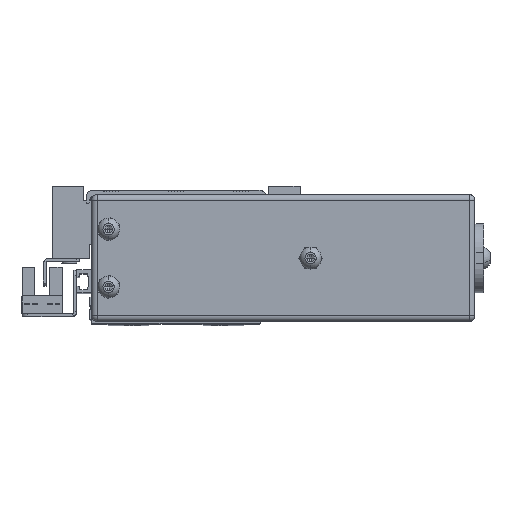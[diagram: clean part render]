
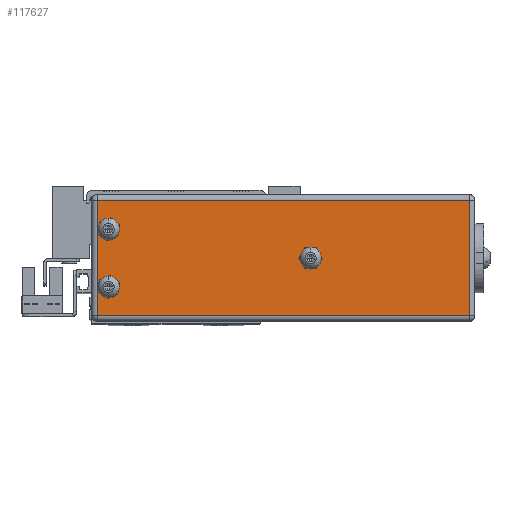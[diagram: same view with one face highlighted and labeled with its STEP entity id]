
A CAD part, top view. The second image highlights one B-rep face of the part: STEP entity #117627.
In plain terms, the highlighted planar face has unit normal (0, 0, 1).
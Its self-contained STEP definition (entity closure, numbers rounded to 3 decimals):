
#4905 = CARTESIAN_POINT ( 'NONE',  ( -110.161, 0.921, 163. ) ) ;
#5246 = AXIS2_PLACEMENT_3D ( 'NONE', #4905, #129862, #18135 ) ;
#6480 = LINE ( 'NONE', #30627, #53760 ) ;
#7708 = EDGE_CURVE ( 'NONE', #12779, #149198, #131633, .T. ) ;
#7859 = FACE_OUTER_BOUND ( 'NONE', #177436, .T. ) ;
#9658 = AXIS2_PLACEMENT_3D ( 'NONE', #12840, #125121, #96677 ) ;
#11672 = EDGE_CURVE ( 'NONE', #137781, #12779, #120455, .T. ) ;
#12779 = VERTEX_POINT ( 'NONE', #144137 ) ;
#12840 = CARTESIAN_POINT ( 'NONE',  ( -40.161, 10.921, 163. ) ) ;
#14817 = EDGE_CURVE ( 'NONE', #174317, #108074, #122013, .T. ) ;
#16680 = EDGE_CURVE ( 'NONE', #149198, #72523, #16725, .T. ) ;
#16725 = LINE ( 'NONE', #63413, #83599 ) ;
#17377 = DIRECTION ( 'NONE',  ( -1., 0., 0. ) ) ;
#18135 = DIRECTION ( 'NONE',  ( 1., 0., 0. ) ) ;
#20293 = EDGE_LOOP ( 'NONE', ( #69201, #92543 ) ) ;
#22619 = CARTESIAN_POINT ( 'NONE',  ( -110.161, 0.921, 163. ) ) ;
#25153 = EDGE_CURVE ( 'NONE', #98037, #75541, #167633, .T. ) ;
#26507 = CARTESIAN_POINT ( 'NONE',  ( 14.839, -9.079, 163. ) ) ;
#27196 = FACE_BOUND ( 'NONE', #20293, .T. ) ;
#30627 = CARTESIAN_POINT ( 'NONE',  ( -116.161, 30.921, 163. ) ) ;
#32125 = ORIENTED_EDGE ( 'NONE', *, *, #84119, .F. ) ;
#33666 = CARTESIAN_POINT ( 'NONE',  ( -116.161, -11.079, 163. ) ) ;
#34343 = AXIS2_PLACEMENT_3D ( 'NONE', #33666, #141192, #17377 ) ;
#34934 = AXIS2_PLACEMENT_3D ( 'NONE', #130958, #171249, #102536 ) ;
#37050 = DIRECTION ( 'NONE',  ( 1., 0., 0. ) ) ;
#37087 = DIRECTION ( 'NONE',  ( 1., 0., 0. ) ) ;
#38320 = DIRECTION ( 'NONE',  ( 0., -1., 0. ) ) ;
#44254 = ORIENTED_EDGE ( 'NONE', *, *, #25153, .F. ) ;
#51039 = DIRECTION ( 'NONE',  ( 0., 0., 1. ) ) ;
#53760 = VECTOR ( 'NONE', #70529, 1000. ) ;
#54801 = CIRCLE ( 'NONE', #5246, 2.25 ) ;
#55487 = EDGE_CURVE ( 'NONE', #91731, #152751, #167160, .T. ) ;
#62859 = ORIENTED_EDGE ( 'NONE', *, *, #16680, .T. ) ;
#63413 = CARTESIAN_POINT ( 'NONE',  ( 14.839, -11.079, 163. ) ) ;
#63860 = CARTESIAN_POINT ( 'NONE',  ( -110.161, 20.921, 163. ) ) ;
#66169 = AXIS2_PLACEMENT_3D ( 'NONE', #63860, #51039, #92797 ) ;
#68910 = ORIENTED_EDGE ( 'NONE', *, *, #7708, .T. ) ;
#69201 = ORIENTED_EDGE ( 'NONE', *, *, #119571, .F. ) ;
#69609 = EDGE_CURVE ( 'NONE', #108074, #174317, #77403, .T. ) ;
#70529 = DIRECTION ( 'NONE',  ( -1., 0., 0. ) ) ;
#72523 = VERTEX_POINT ( 'NONE', #96894 ) ;
#74969 = DIRECTION ( 'NONE',  ( 0., 0., 1. ) ) ;
#75541 = VERTEX_POINT ( 'NONE', #94856 ) ;
#77403 = CIRCLE ( 'NONE', #100280, 2.25 ) ;
#80214 = ORIENTED_EDGE ( 'NONE', *, *, #69609, .F. ) ;
#83599 = VECTOR ( 'NONE', #158776, 1000. ) ;
#83726 = ORIENTED_EDGE ( 'NONE', *, *, #14817, .F. ) ;
#84119 = EDGE_CURVE ( 'NONE', #75541, #98037, #54801, .T. ) ;
#91731 = VERTEX_POINT ( 'NONE', #144976 ) ;
#91911 = CARTESIAN_POINT ( 'NONE',  ( -37.911, 10.921, 163. ) ) ;
#92543 = ORIENTED_EDGE ( 'NONE', *, *, #55487, .F. ) ;
#92797 = DIRECTION ( 'NONE',  ( 1., 0., 0. ) ) ;
#94846 = VECTOR ( 'NONE', #37050, 1000. ) ;
#94856 = CARTESIAN_POINT ( 'NONE',  ( -107.911, 0.921, 163. ) ) ;
#96677 = DIRECTION ( 'NONE',  ( 1., 0., 0. ) ) ;
#96894 = CARTESIAN_POINT ( 'NONE',  ( 14.839, 30.921, 163. ) ) ;
#98037 = VERTEX_POINT ( 'NONE', #169821 ) ;
#98600 = FACE_BOUND ( 'NONE', #125225, .T. ) ;
#100280 = AXIS2_PLACEMENT_3D ( 'NONE', #157647, #74969, #145604 ) ;
#102269 = EDGE_CURVE ( 'NONE', #72523, #137781, #6480, .T. ) ;
#102536 = DIRECTION ( 'NONE',  ( 1., 0., 0. ) ) ;
#103160 = VECTOR ( 'NONE', #38320, 1000. ) ;
#106323 = CARTESIAN_POINT ( 'NONE',  ( -107.911, 20.921, 163. ) ) ;
#108074 = VERTEX_POINT ( 'NONE', #164778 ) ;
#117627 = ADVANCED_FACE ( 'NONE', ( #98600, #163293, #27196, #7859 ), #169971, .F. ) ;
#118569 = DIRECTION ( 'NONE',  ( 0., 0., 1. ) ) ;
#119571 = EDGE_CURVE ( 'NONE', #152751, #91731, #167031, .T. ) ;
#120455 = LINE ( 'NONE', #120991, #103160 ) ;
#120960 = AXIS2_PLACEMENT_3D ( 'NONE', #22619, #118569, #37087 ) ;
#120991 = CARTESIAN_POINT ( 'NONE',  ( -114.161, -11.079, 163. ) ) ;
#122013 = CIRCLE ( 'NONE', #9658, 2.25 ) ;
#125121 = DIRECTION ( 'NONE',  ( 0., 0., 1. ) ) ;
#125225 = EDGE_LOOP ( 'NONE', ( #83726, #80214 ) ) ;
#129862 = DIRECTION ( 'NONE',  ( 0., 0., 1. ) ) ;
#130958 = CARTESIAN_POINT ( 'NONE',  ( -110.161, 20.921, 163. ) ) ;
#131633 = LINE ( 'NONE', #158988, #94846 ) ;
#133798 = ORIENTED_EDGE ( 'NONE', *, *, #102269, .T. ) ;
#137781 = VERTEX_POINT ( 'NONE', #145853 ) ;
#141192 = DIRECTION ( 'NONE',  ( 0., 0., -1. ) ) ;
#144137 = CARTESIAN_POINT ( 'NONE',  ( -114.161, -9.079, 163. ) ) ;
#144976 = CARTESIAN_POINT ( 'NONE',  ( -112.411, 20.921, 163. ) ) ;
#145604 = DIRECTION ( 'NONE',  ( 1., 0., 0. ) ) ;
#145853 = CARTESIAN_POINT ( 'NONE',  ( -114.161, 30.921, 163. ) ) ;
#147646 = EDGE_LOOP ( 'NONE', ( #32125, #44254 ) ) ;
#149198 = VERTEX_POINT ( 'NONE', #26507 ) ;
#152751 = VERTEX_POINT ( 'NONE', #106323 ) ;
#153962 = ORIENTED_EDGE ( 'NONE', *, *, #11672, .T. ) ;
#157647 = CARTESIAN_POINT ( 'NONE',  ( -40.161, 10.921, 163. ) ) ;
#158776 = DIRECTION ( 'NONE',  ( 0., 1., 0. ) ) ;
#158988 = CARTESIAN_POINT ( 'NONE',  ( -116.161, -9.079, 163. ) ) ;
#163293 = FACE_BOUND ( 'NONE', #147646, .T. ) ;
#164778 = CARTESIAN_POINT ( 'NONE',  ( -42.411, 10.921, 163. ) ) ;
#167031 = CIRCLE ( 'NONE', #34934, 2.25 ) ;
#167160 = CIRCLE ( 'NONE', #66169, 2.25 ) ;
#167633 = CIRCLE ( 'NONE', #120960, 2.25 ) ;
#169821 = CARTESIAN_POINT ( 'NONE',  ( -112.411, 0.921, 163. ) ) ;
#169971 = PLANE ( 'NONE',  #34343 ) ;
#171249 = DIRECTION ( 'NONE',  ( 0., 0., 1. ) ) ;
#174317 = VERTEX_POINT ( 'NONE', #91911 ) ;
#177436 = EDGE_LOOP ( 'NONE', ( #62859, #133798, #153962, #68910 ) ) ;
